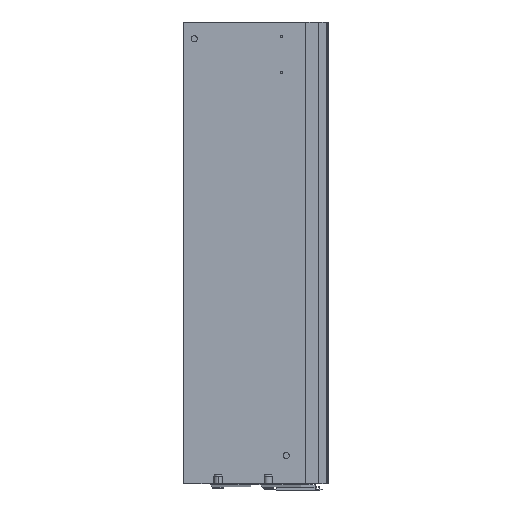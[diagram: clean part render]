
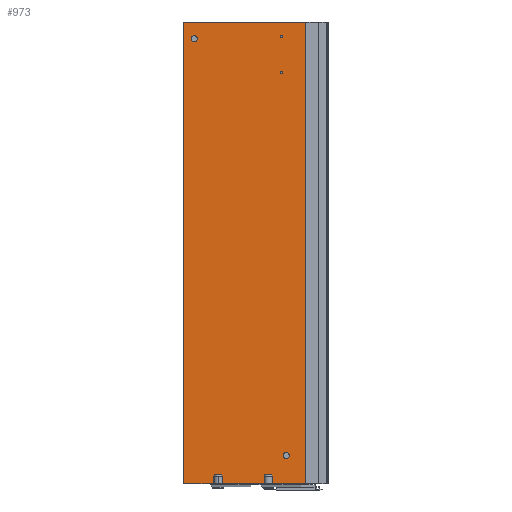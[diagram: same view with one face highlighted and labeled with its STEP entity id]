
A CAD part, left-side view. The second image highlights one B-rep face of the part: STEP entity #973.
In plain terms, the highlighted planar face has unit normal (-1, 0, 0).
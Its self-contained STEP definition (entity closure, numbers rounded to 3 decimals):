
#24 = DIRECTION ( 'NONE',  ( 1., 0., 0. ) ) ;
#57 = ORIENTED_EDGE ( 'NONE', *, *, #3382, .T. ) ;
#117 = DIRECTION ( 'NONE',  ( 1., 0., 0. ) ) ;
#142 = DIRECTION ( 'NONE',  ( 0., 1., 0. ) ) ;
#186 = ORIENTED_EDGE ( 'NONE', *, *, #2568, .T. ) ;
#228 = FACE_OUTER_BOUND ( 'NONE', #1197, .T. ) ;
#351 = AXIS2_PLACEMENT_3D ( 'NONE', #683, #2878, #1006 ) ;
#379 = ORIENTED_EDGE ( 'NONE', *, *, #1860, .F. ) ;
#416 = CARTESIAN_POINT ( 'NONE',  ( -10.5, 0., 0. ) ) ;
#462 = CIRCLE ( 'NONE', #3145, 1.339 ) ;
#476 = VERTEX_POINT ( 'NONE', #2796 ) ;
#498 = ORIENTED_EDGE ( 'NONE', *, *, #1871, .F. ) ;
#588 = LINE ( 'NONE', #982, #3004 ) ;
#602 = VERTEX_POINT ( 'NONE', #4181 ) ;
#620 = CARTESIAN_POINT ( 'NONE',  ( -10.5, 58.8, -590. ) ) ;
#661 = DIRECTION ( 'NONE',  ( 0., 0., -1. ) ) ;
#663 = ORIENTED_EDGE ( 'NONE', *, *, #3017, .T. ) ;
#672 = DIRECTION ( 'NONE',  ( 1., 0., 0. ) ) ;
#683 = CARTESIAN_POINT ( 'NONE',  ( -10.5, 30.85, -18.85 ) ) ;
#697 = VERTEX_POINT ( 'NONE', #1034 ) ;
#718 = EDGE_CURVE ( 'NONE', #2176, #3276, #3695, .T. ) ;
#726 = ORIENTED_EDGE ( 'NONE', *, *, #4027, .F. ) ;
#753 = VERTEX_POINT ( 'NONE', #2649 ) ;
#818 = VERTEX_POINT ( 'NONE', #1749 ) ;
#819 = CARTESIAN_POINT ( 'NONE',  ( -10.5, 21.1, -554. ) ) ;
#889 = CARTESIAN_POINT ( 'NONE',  ( -10.5, 156., -590. ) ) ;
#925 = CARTESIAN_POINT ( 'NONE',  ( -10.5, 0., 0. ) ) ;
#973 = ADVANCED_FACE ( 'NONE', ( #3529, #3970, #1486, #228, #2662 ), #3074, .F. ) ;
#982 = CARTESIAN_POINT ( 'NONE',  ( -10.5, 156., 0. ) ) ;
#1002 = ORIENTED_EDGE ( 'NONE', *, *, #3144, .T. ) ;
#1004 = VECTOR ( 'NONE', #3844, 1000. ) ;
#1006 = DIRECTION ( 'NONE',  ( 0., 1., 0. ) ) ;
#1034 = CARTESIAN_POINT ( 'NONE',  ( -10.5, 29.511, -64.56 ) ) ;
#1113 = AXIS2_PLACEMENT_3D ( 'NONE', #1372, #3607, #1666 ) ;
#1186 = CARTESIAN_POINT ( 'NONE',  ( -10.5, 142.5, -25.5 ) ) ;
#1189 = CARTESIAN_POINT ( 'NONE',  ( -10.5, 156., 0. ) ) ;
#1197 = EDGE_LOOP ( 'NONE', ( #1202, #498, #379, #3430, #3647, #3483, #726 ) ) ;
#1198 = CARTESIAN_POINT ( 'NONE',  ( -10.5, 122., -590. ) ) ;
#1202 = ORIENTED_EDGE ( 'NONE', *, *, #4083, .T. ) ;
#1207 = VERTEX_POINT ( 'NONE', #2006 ) ;
#1286 = CIRCLE ( 'NONE', #1294, 1.339 ) ;
#1294 = AXIS2_PLACEMENT_3D ( 'NONE', #2024, #117, #2332 ) ;
#1308 = VERTEX_POINT ( 'NONE', #3659 ) ;
#1342 = CIRCLE ( 'NONE', #2603, 4. ) ;
#1364 = LINE ( 'NONE', #416, #3137 ) ;
#1372 = CARTESIAN_POINT ( 'NONE',  ( -10.5, 25., -554. ) ) ;
#1442 = VERTEX_POINT ( 'NONE', #1198 ) ;
#1448 = ORIENTED_EDGE ( 'NONE', *, *, #1946, .T. ) ;
#1457 = EDGE_CURVE ( 'NONE', #602, #3359, #2754, .T. ) ;
#1486 = FACE_BOUND ( 'NONE', #3707, .T. ) ;
#1509 = DIRECTION ( 'NONE',  ( 0., 1., 0. ) ) ;
#1571 = LINE ( 'NONE', #3595, #4063 ) ;
#1660 = CARTESIAN_POINT ( 'NONE',  ( -10.5, 142.5, -21.5 ) ) ;
#1666 = DIRECTION ( 'NONE',  ( 0., 1., 0. ) ) ;
#1749 = CARTESIAN_POINT ( 'NONE',  ( -10.5, 29.511, -18.85 ) ) ;
#1765 = CARTESIAN_POINT ( 'NONE',  ( -10.5, 142.5, -17.5 ) ) ;
#1794 = CIRCLE ( 'NONE', #351, 1.339 ) ;
#1798 = CARTESIAN_POINT ( 'NONE',  ( -10.5, 32.189, -64.56 ) ) ;
#1860 = EDGE_CURVE ( 'NONE', #3359, #1442, #3251, .T. ) ;
#1871 = EDGE_CURVE ( 'NONE', #1442, #476, #1571, .T. ) ;
#1890 = CARTESIAN_POINT ( 'NONE',  ( -10.5, 156., 0. ) ) ;
#1898 = CARTESIAN_POINT ( 'NONE',  ( -10.5, 30.85, -64.56 ) ) ;
#1936 = CARTESIAN_POINT ( 'NONE',  ( -10.5, 30.85, -18.85 ) ) ;
#1946 = EDGE_CURVE ( 'NONE', #697, #3816, #1286, .T. ) ;
#1973 = CARTESIAN_POINT ( 'NONE',  ( -10.5, 155.9, -590. ) ) ;
#1987 = DIRECTION ( 'NONE',  ( 0., 1., 0. ) ) ;
#2006 = CARTESIAN_POINT ( 'NONE',  ( -10.5, 156., 0. ) ) ;
#2024 = CARTESIAN_POINT ( 'NONE',  ( -10.5, 30.85, -64.56 ) ) ;
#2044 = DIRECTION ( 'NONE',  ( 1., 0., 0. ) ) ;
#2127 = DIRECTION ( 'NONE',  ( 0., 1., 0. ) ) ;
#2176 = VERTEX_POINT ( 'NONE', #1765 ) ;
#2205 = DIRECTION ( 'NONE',  ( 0., 1., 0. ) ) ;
#2206 = CARTESIAN_POINT ( 'NONE',  ( -10.5, 28.9, -554. ) ) ;
#2245 = DIRECTION ( 'NONE',  ( 0., 1., 0. ) ) ;
#2289 = DIRECTION ( 'NONE',  ( 0., 0., -1. ) ) ;
#2332 = DIRECTION ( 'NONE',  ( 0., 1., 0. ) ) ;
#2349 = VERTEX_POINT ( 'NONE', #925 ) ;
#2396 = VECTOR ( 'NONE', #2922, 1000. ) ;
#2417 = EDGE_LOOP ( 'NONE', ( #1448, #57 ) ) ;
#2429 = CIRCLE ( 'NONE', #3287, 1.339 ) ;
#2444 = EDGE_CURVE ( 'NONE', #753, #602, #2601, .T. ) ;
#2473 = ORIENTED_EDGE ( 'NONE', *, *, #4096, .T. ) ;
#2495 = VECTOR ( 'NONE', #3500, 1000. ) ;
#2531 = CARTESIAN_POINT ( 'NONE',  ( -10.5, 155.9, -590. ) ) ;
#2546 = CARTESIAN_POINT ( 'NONE',  ( -10.5, 142.5, -21.5 ) ) ;
#2568 = EDGE_CURVE ( 'NONE', #2697, #2967, #2847, .T. ) ;
#2601 = LINE ( 'NONE', #2531, #2495 ) ;
#2603 = AXIS2_PLACEMENT_3D ( 'NONE', #2546, #672, #2872 ) ;
#2649 = CARTESIAN_POINT ( 'NONE',  ( -10.5, 0., -590. ) ) ;
#2662 = FACE_BOUND ( 'NONE', #3918, .T. ) ;
#2697 = VERTEX_POINT ( 'NONE', #819 ) ;
#2727 = AXIS2_PLACEMENT_3D ( 'NONE', #1660, #3947, #1987 ) ;
#2754 = LINE ( 'NONE', #889, #3406 ) ;
#2796 = CARTESIAN_POINT ( 'NONE',  ( -10.5, 156., -590. ) ) ;
#2828 = AXIS2_PLACEMENT_3D ( 'NONE', #1189, #3400, #1509 ) ;
#2847 = CIRCLE ( 'NONE', #1113, 3.9 ) ;
#2872 = DIRECTION ( 'NONE',  ( 0., 1., 0. ) ) ;
#2878 = DIRECTION ( 'NONE',  ( 1., 0., 0. ) ) ;
#2921 = ORIENTED_EDGE ( 'NONE', *, *, #3463, .T. ) ;
#2922 = DIRECTION ( 'NONE',  ( 0., 1., 0. ) ) ;
#2967 = VERTEX_POINT ( 'NONE', #2206 ) ;
#3004 = VECTOR ( 'NONE', #661, 1000. ) ;
#3017 = EDGE_CURVE ( 'NONE', #1308, #818, #1794, .T. ) ;
#3074 = PLANE ( 'NONE',  #2828 ) ;
#3111 = ORIENTED_EDGE ( 'NONE', *, *, #718, .T. ) ;
#3137 = VECTOR ( 'NONE', #2289, 1000. ) ;
#3144 = EDGE_CURVE ( 'NONE', #2967, #2697, #3669, .T. ) ;
#3145 = AXIS2_PLACEMENT_3D ( 'NONE', #1936, #24, #2245 ) ;
#3251 = LINE ( 'NONE', #1973, #2396 ) ;
#3276 = VERTEX_POINT ( 'NONE', #1186 ) ;
#3280 = EDGE_LOOP ( 'NONE', ( #2921, #663 ) ) ;
#3287 = AXIS2_PLACEMENT_3D ( 'NONE', #1898, #4186, #2205 ) ;
#3359 = VERTEX_POINT ( 'NONE', #620 ) ;
#3382 = EDGE_CURVE ( 'NONE', #3816, #697, #2429, .T. ) ;
#3400 = DIRECTION ( 'NONE',  ( 1., 0., 0. ) ) ;
#3406 = VECTOR ( 'NONE', #2127, 1000. ) ;
#3430 = ORIENTED_EDGE ( 'NONE', *, *, #1457, .F. ) ;
#3463 = EDGE_CURVE ( 'NONE', #818, #1308, #462, .T. ) ;
#3483 = ORIENTED_EDGE ( 'NONE', *, *, #3567, .F. ) ;
#3500 = DIRECTION ( 'NONE',  ( 0., 1., 0. ) ) ;
#3529 = FACE_BOUND ( 'NONE', #3280, .T. ) ;
#3567 = EDGE_CURVE ( 'NONE', #2349, #753, #1364, .T. ) ;
#3595 = CARTESIAN_POINT ( 'NONE',  ( -10.5, 155.9, -590. ) ) ;
#3607 = DIRECTION ( 'NONE',  ( 1., 0., 0. ) ) ;
#3647 = ORIENTED_EDGE ( 'NONE', *, *, #2444, .F. ) ;
#3659 = CARTESIAN_POINT ( 'NONE',  ( -10.5, 32.189, -18.85 ) ) ;
#3669 = CIRCLE ( 'NONE', #3689, 3.9 ) ;
#3689 = AXIS2_PLACEMENT_3D ( 'NONE', #4017, #2044, #142 ) ;
#3695 = CIRCLE ( 'NONE', #2727, 4. ) ;
#3707 = EDGE_LOOP ( 'NONE', ( #3111, #2473 ) ) ;
#3748 = LINE ( 'NONE', #1890, #1004 ) ;
#3816 = VERTEX_POINT ( 'NONE', #1798 ) ;
#3844 = DIRECTION ( 'NONE',  ( 0., -1., 0. ) ) ;
#3918 = EDGE_LOOP ( 'NONE', ( #1002, #186 ) ) ;
#3947 = DIRECTION ( 'NONE',  ( 1., 0., 0. ) ) ;
#3951 = DIRECTION ( 'NONE',  ( 0., 1., 0. ) ) ;
#3970 = FACE_BOUND ( 'NONE', #2417, .T. ) ;
#4017 = CARTESIAN_POINT ( 'NONE',  ( -10.5, 25., -554. ) ) ;
#4027 = EDGE_CURVE ( 'NONE', #1207, #2349, #3748, .T. ) ;
#4063 = VECTOR ( 'NONE', #3951, 1000. ) ;
#4083 = EDGE_CURVE ( 'NONE', #1207, #476, #588, .T. ) ;
#4096 = EDGE_CURVE ( 'NONE', #3276, #2176, #1342, .T. ) ;
#4181 = CARTESIAN_POINT ( 'NONE',  ( -10.5, 58., -590. ) ) ;
#4186 = DIRECTION ( 'NONE',  ( 1., 0., 0. ) ) ;
